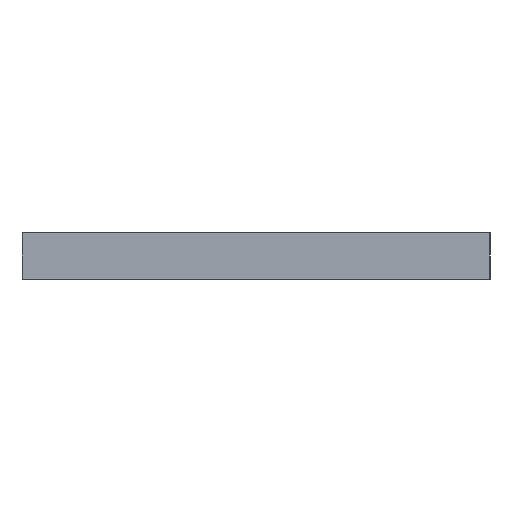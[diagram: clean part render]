
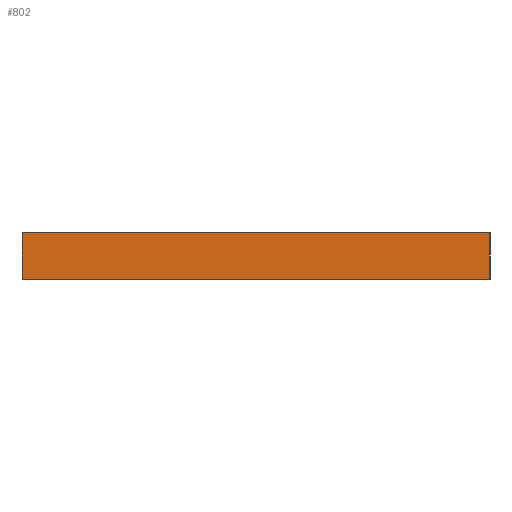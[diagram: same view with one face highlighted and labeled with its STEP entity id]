
A CAD part, left-side view. The second image highlights one B-rep face of the part: STEP entity #802.
In plain terms, the highlighted planar face has unit normal (-1, 0, 0).
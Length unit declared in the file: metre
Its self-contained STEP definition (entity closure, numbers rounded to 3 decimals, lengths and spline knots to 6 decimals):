
#26=ORIENTED_EDGE('',*,*,#255,.T.);
#27=ORIENTED_EDGE('',*,*,#256,.F.);
#28=ORIENTED_EDGE('',*,*,#257,.F.);
#29=ORIENTED_EDGE('',*,*,#253,.T.);
#253=EDGE_CURVE('',#368,#367,#446,.T.);
#255=EDGE_CURVE('',#367,#369,#448,.T.);
#256=EDGE_CURVE('',#370,#369,#449,.T.);
#257=EDGE_CURVE('',#368,#370,#450,.T.);
#367=VERTEX_POINT('',#1114);
#368=VERTEX_POINT('',#1116);
#369=VERTEX_POINT('',#1120);
#370=VERTEX_POINT('',#1122);
#446=LINE('',#1115,#557);
#448=LINE('',#1119,#559);
#449=LINE('',#1121,#560);
#450=LINE('',#1123,#561);
#557=VECTOR('',#910,1.);
#559=VECTOR('',#914,1.);
#560=VECTOR('',#915,1.);
#561=VECTOR('',#916,1.);
#665=EDGE_LOOP('',(#26,#27,#28,#29));
#714=FACE_BOUND('',#665,.T.);
#763=PLANE('',#856);
#802=ADVANCED_FACE('',(#714),#763,.F.);
#856=AXIS2_PLACEMENT_3D('',#1118,#912,#913);
#910=DIRECTION('',(0.,0.,-1.));
#912=DIRECTION('',(1.,0.,0.));
#913=DIRECTION('',(0.,0.,-1.));
#914=DIRECTION('',(0.,-1.,0.));
#915=DIRECTION('',(0.,0.,-1.));
#916=DIRECTION('',(0.,-1.,0.));
#1114=CARTESIAN_POINT('',(0.099,0.03,0.033));
#1115=CARTESIAN_POINT('',(0.099,0.03,0.035));
#1116=CARTESIAN_POINT('',(0.099,0.03,0.035));
#1118=CARTESIAN_POINT('',(0.099,0.02,0.035));
#1119=CARTESIAN_POINT('',(0.099,0.02,0.033));
#1120=CARTESIAN_POINT('',(0.099,0.01,0.033));
#1121=CARTESIAN_POINT('',(0.099,0.01,0.035));
#1122=CARTESIAN_POINT('',(0.099,0.01,0.035));
#1123=CARTESIAN_POINT('',(0.099,0.02,0.035));
